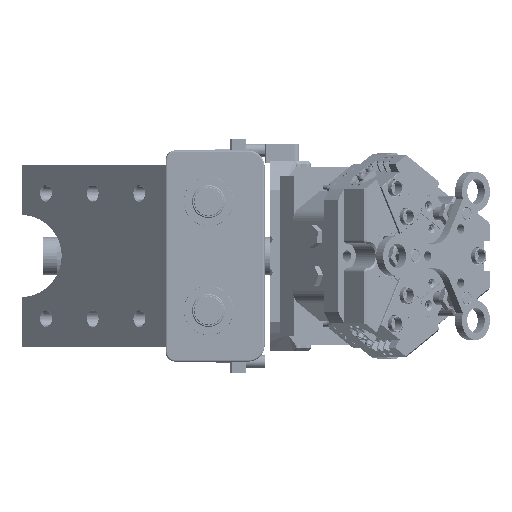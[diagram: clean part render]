
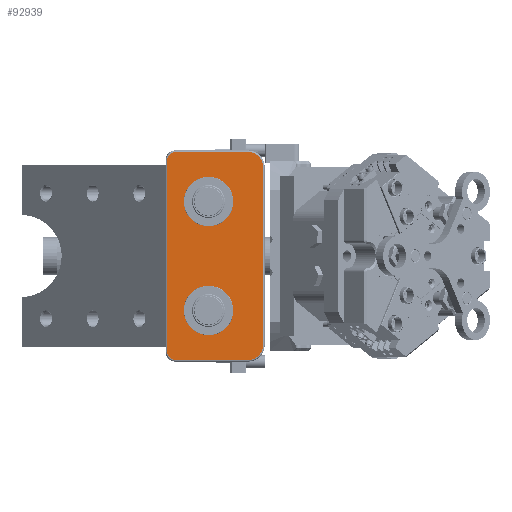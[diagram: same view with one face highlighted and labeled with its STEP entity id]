
A CAD part, left-side view. The second image highlights one B-rep face of the part: STEP entity #92939.
In plain terms, the highlighted planar face has unit normal (-1, 0, 0) as drawn and (0, -1, 0) by its records, which use the part's own axes.
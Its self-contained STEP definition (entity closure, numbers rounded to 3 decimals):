
#6 = AXIS2_PLACEMENT_3D ( 'NONE', #82100, #72744, #81381 ) ;
#5082 = VERTEX_POINT ( 'NONE', #84376 ) ;
#5517 = ORIENTED_EDGE ( 'NONE', *, *, #76924, .T. ) ;
#8852 = LINE ( 'NONE', #91212, #20896 ) ;
#9186 = DIRECTION ( 'NONE',  ( -1., 0., 0. ) ) ;
#9665 = ORIENTED_EDGE ( 'NONE', *, *, #21256, .T. ) ;
#10767 = CARTESIAN_POINT ( 'NONE',  ( -33., 0., 4. ) ) ;
#11979 = DIRECTION ( 'NONE',  ( 0., 0., -1. ) ) ;
#12283 = CARTESIAN_POINT ( 'NONE',  ( 63., 0., 24. ) ) ;
#13455 = EDGE_LOOP ( 'NONE', ( #108948, #21435, #15436, #43398, #66156, #9665, #102514, #5517 ) ) ;
#14076 = CIRCLE ( 'NONE', #23896, 9. ) ;
#14181 = DIRECTION ( 'NONE',  ( 1., 0., 0. ) ) ;
#14258 = CARTESIAN_POINT ( 'NONE',  ( -63., 0., 24. ) ) ;
#15436 = ORIENTED_EDGE ( 'NONE', *, *, #72692, .T. ) ;
#16419 = VECTOR ( 'NONE', #14181, 1000. ) ;
#16799 = FACE_BOUND ( 'NONE', #73166, .T. ) ;
#17070 = AXIS2_PLACEMENT_3D ( 'NONE', #23518, #57216, #40724 ) ;
#19574 = EDGE_CURVE ( 'NONE', #110779, #44060, #80056, .T. ) ;
#20455 = EDGE_CURVE ( 'NONE', #97201, #34627, #8852, .T. ) ;
#20896 = VECTOR ( 'NONE', #99814, 1000. ) ;
#21167 = CARTESIAN_POINT ( 'NONE',  ( -54., 0., -20. ) ) ;
#21256 = EDGE_CURVE ( 'NONE', #57197, #97201, #14076, .T. ) ;
#21435 = ORIENTED_EDGE ( 'NONE', *, *, #29264, .T. ) ;
#21716 = CARTESIAN_POINT ( 'NONE',  ( -33., 0., 4. ) ) ;
#22398 = ORIENTED_EDGE ( 'NONE', *, *, #27612, .F. ) ;
#23518 = CARTESIAN_POINT ( 'NONE',  ( 0., 0., 0. ) ) ;
#23863 = VECTOR ( 'NONE', #86840, 1000. ) ;
#23896 = AXIS2_PLACEMENT_3D ( 'NONE', #85448, #69262, #78312 ) ;
#25793 = CIRCLE ( 'NONE', #40527, 5. ) ;
#26345 = LINE ( 'NONE', #84940, #66532 ) ;
#26355 = CARTESIAN_POINT ( 'NONE',  ( -33., 0., 13.25 ) ) ;
#27612 = EDGE_CURVE ( 'NONE', #32724, #99715, #94518, .T. ) ;
#28204 = DIRECTION ( 'NONE',  ( 0., 0., -1. ) ) ;
#29264 = EDGE_CURVE ( 'NONE', #74010, #111114, #52675, .T. ) ;
#29938 = DIRECTION ( 'NONE',  ( 0., -1., 0. ) ) ;
#32724 = VERTEX_POINT ( 'NONE', #78545 ) ;
#34627 = VERTEX_POINT ( 'NONE', #12283 ) ;
#37710 = AXIS2_PLACEMENT_3D ( 'NONE', #10767, #95856, #78281 ) ;
#40527 = AXIS2_PLACEMENT_3D ( 'NONE', #110562, #59938, #59190 ) ;
#40724 = DIRECTION ( 'NONE',  ( 0., 0., -1. ) ) ;
#41857 = CIRCLE ( 'NONE', #51383, 9. ) ;
#43398 = ORIENTED_EDGE ( 'NONE', *, *, #66671, .T. ) ;
#44060 = VERTEX_POINT ( 'NONE', #97180 ) ;
#45271 = ORIENTED_EDGE ( 'NONE', *, *, #71421, .F. ) ;
#46328 = CARTESIAN_POINT ( 'NONE',  ( 63., 0., -20. ) ) ;
#47549 = CARTESIAN_POINT ( 'NONE',  ( 58., 0., 29. ) ) ;
#50583 = EDGE_CURVE ( 'NONE', #53585, #74010, #26345, .T. ) ;
#51383 = AXIS2_PLACEMENT_3D ( 'NONE', #21167, #73981, #82614 ) ;
#52675 = CIRCLE ( 'NONE', #93395, 5. ) ;
#53585 = VERTEX_POINT ( 'NONE', #47549 ) ;
#53626 = EDGE_CURVE ( 'NONE', #5082, #57197, #107593, .T. ) ;
#57197 = VERTEX_POINT ( 'NONE', #107475 ) ;
#57216 = DIRECTION ( 'NONE',  ( 0., -1., 0. ) ) ;
#58021 = CARTESIAN_POINT ( 'NONE',  ( 33., 0., -5.25 ) ) ;
#59190 = DIRECTION ( 'NONE',  ( 0., 0., -1. ) ) ;
#59938 = DIRECTION ( 'NONE',  ( 0., -1., 0. ) ) ;
#65577 = CIRCLE ( 'NONE', #37710, 9.25 ) ;
#66156 = ORIENTED_EDGE ( 'NONE', *, *, #53626, .T. ) ;
#66532 = VECTOR ( 'NONE', #9186, 1000. ) ;
#66555 = VERTEX_POINT ( 'NONE', #77989 ) ;
#66671 = EDGE_CURVE ( 'NONE', #66555, #5082, #41857, .T. ) ;
#69215 = CARTESIAN_POINT ( 'NONE',  ( -63., 0., 0. ) ) ;
#69262 = DIRECTION ( 'NONE',  ( 0., -1., 0. ) ) ;
#71421 = EDGE_CURVE ( 'NONE', #99715, #32724, #96075, .T. ) ;
#71766 = FACE_BOUND ( 'NONE', #78640, .T. ) ;
#72692 = EDGE_CURVE ( 'NONE', #111114, #66555, #73426, .T. ) ;
#72744 = DIRECTION ( 'NONE',  ( 0., -1., 0. ) ) ;
#73166 = EDGE_LOOP ( 'NONE', ( #75204, #87137 ) ) ;
#73417 = DIRECTION ( 'NONE',  ( 0., 0., -1. ) ) ;
#73426 = LINE ( 'NONE', #69215, #23863 ) ;
#73981 = DIRECTION ( 'NONE',  ( 0., -1., 0. ) ) ;
#74010 = VERTEX_POINT ( 'NONE', #92876 ) ;
#74523 = CARTESIAN_POINT ( 'NONE',  ( 0., 0., -29. ) ) ;
#75204 = ORIENTED_EDGE ( 'NONE', *, *, #79155, .F. ) ;
#76924 = EDGE_CURVE ( 'NONE', #34627, #53585, #25793, .T. ) ;
#77989 = CARTESIAN_POINT ( 'NONE',  ( -63., 0., -20. ) ) ;
#78281 = DIRECTION ( 'NONE',  ( 0., 0., -1. ) ) ;
#78312 = DIRECTION ( 'NONE',  ( 0., 0., -1. ) ) ;
#78545 = CARTESIAN_POINT ( 'NONE',  ( 33., 0., 13.25 ) ) ;
#78640 = EDGE_LOOP ( 'NONE', ( #45271, #22398 ) ) ;
#79155 = EDGE_CURVE ( 'NONE', #44060, #110779, #65577, .T. ) ;
#79211 = CARTESIAN_POINT ( 'NONE',  ( -58., 0., 24. ) ) ;
#80056 = CIRCLE ( 'NONE', #100458, 9.25 ) ;
#81381 = DIRECTION ( 'NONE',  ( 0., 0., -1. ) ) ;
#82100 = CARTESIAN_POINT ( 'NONE',  ( 33., 0., 4. ) ) ;
#82534 = FACE_OUTER_BOUND ( 'NONE', #13455, .T. ) ;
#82614 = DIRECTION ( 'NONE',  ( 0., 0., -1. ) ) ;
#84376 = CARTESIAN_POINT ( 'NONE',  ( -54., 0., -29. ) ) ;
#84608 = AXIS2_PLACEMENT_3D ( 'NONE', #106741, #29938, #73417 ) ;
#84940 = CARTESIAN_POINT ( 'NONE',  ( -58., 0., 29. ) ) ;
#85448 = CARTESIAN_POINT ( 'NONE',  ( 54., 0., -20. ) ) ;
#86840 = DIRECTION ( 'NONE',  ( 0., 0., -1. ) ) ;
#87137 = ORIENTED_EDGE ( 'NONE', *, *, #19574, .F. ) ;
#91212 = CARTESIAN_POINT ( 'NONE',  ( 63., 0., 24. ) ) ;
#92876 = CARTESIAN_POINT ( 'NONE',  ( -58., 0., 29. ) ) ;
#92939 = ADVANCED_FACE ( 'NONE', ( #82534, #71766, #16799 ), #108928, .T. ) ;
#93395 = AXIS2_PLACEMENT_3D ( 'NONE', #79211, #96767, #28204 ) ;
#94518 = CIRCLE ( 'NONE', #84608, 9.25 ) ;
#95856 = DIRECTION ( 'NONE',  ( 0., -1., 0. ) ) ;
#96075 = CIRCLE ( 'NONE', #6, 9.25 ) ;
#96767 = DIRECTION ( 'NONE',  ( 0., -1., 0. ) ) ;
#97044 = DIRECTION ( 'NONE',  ( 0., -1., 0. ) ) ;
#97180 = CARTESIAN_POINT ( 'NONE',  ( -33., 0., -5.25 ) ) ;
#97201 = VERTEX_POINT ( 'NONE', #46328 ) ;
#99715 = VERTEX_POINT ( 'NONE', #58021 ) ;
#99814 = DIRECTION ( 'NONE',  ( 0., 0., 1. ) ) ;
#100458 = AXIS2_PLACEMENT_3D ( 'NONE', #21716, #97044, #11979 ) ;
#102514 = ORIENTED_EDGE ( 'NONE', *, *, #20455, .T. ) ;
#106741 = CARTESIAN_POINT ( 'NONE',  ( 33., 0., 4. ) ) ;
#107475 = CARTESIAN_POINT ( 'NONE',  ( 54., 0., -29. ) ) ;
#107593 = LINE ( 'NONE', #74523, #16419 ) ;
#108928 = PLANE ( 'NONE',  #17070 ) ;
#108948 = ORIENTED_EDGE ( 'NONE', *, *, #50583, .T. ) ;
#110562 = CARTESIAN_POINT ( 'NONE',  ( 58., 0., 24. ) ) ;
#110779 = VERTEX_POINT ( 'NONE', #26355 ) ;
#111114 = VERTEX_POINT ( 'NONE', #14258 ) ;
